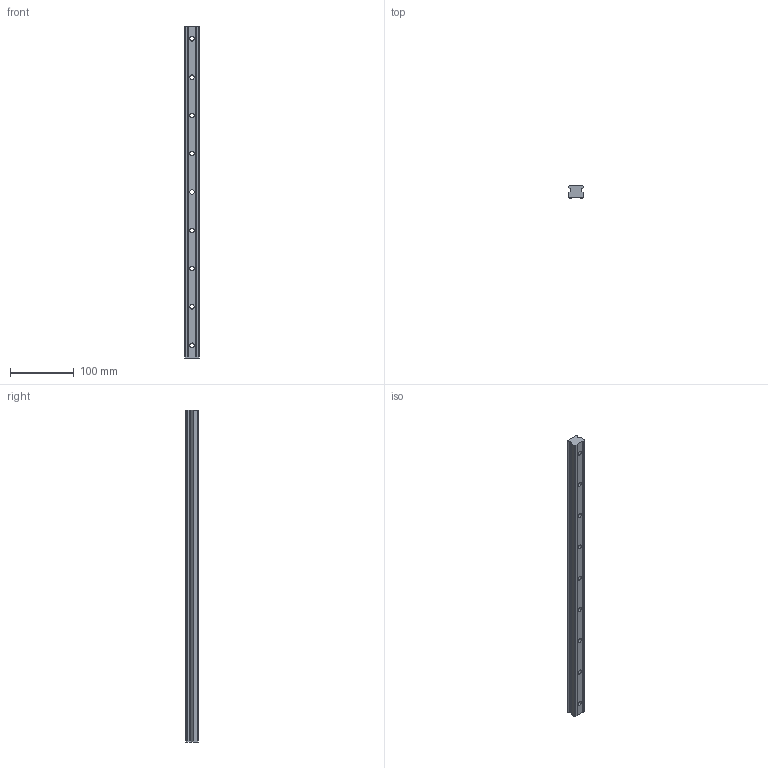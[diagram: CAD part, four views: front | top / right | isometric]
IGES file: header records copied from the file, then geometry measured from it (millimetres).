
Start section: SolidWorks IGES file using analytic representation for surfaces
Global section: file name: C:\Users\IanO\Desktop\L1016_v2\L1016.BL25_v2\L1016.BL25_v2_20160611_IGES\L1016.BL25-0520.igs; native system: SolidWorks 2017; preprocessor: SolidWorks 2017; author: IanO; date: 190612.130504; units: millimetre
Bounding box: 23 x 19.2 x 520 mm (x, y, z)
Surface area: 49959.6 mm2 (no closed solid volume)
Topology: 0 solids, 0 shells, 71 faces, 1464 edges, 1464 vertices
Faces by surface type: revolution 40, bspline 31
